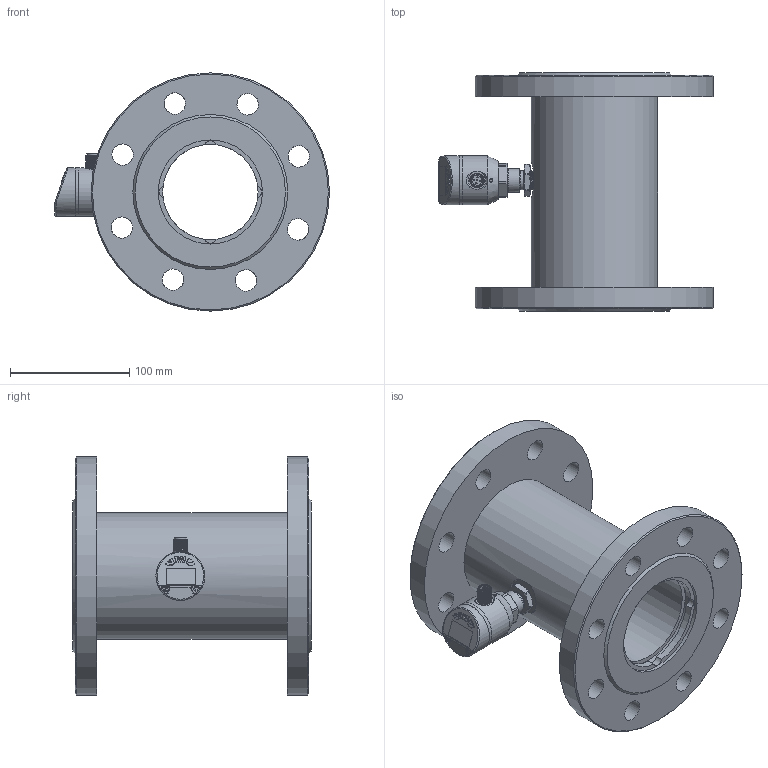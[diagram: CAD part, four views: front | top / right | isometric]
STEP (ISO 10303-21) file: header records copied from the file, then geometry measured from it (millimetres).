
FILE_DESCRIPTION( (''), '2;1');
FILE_NAME( 'QTKA_DN80_flange.step', '2024-01-11T13:47:26+08:00', (''), (''), '', '', '');
FILE_SCHEMA (('AUTOMOTIVE_DESIGN { 1 0 10303 214 3 1 1 1 }'));
Length unit declared in the file: millimetre
Products named in the file (1): QTKA DN80_flange
Bounding box: 230.8 x 200 x 200 mm (x, y, z)
Volume: 1532871.8 mm3; surface area: 261573.3 mm2
Topology: 5 solids, 7 shells, 479 faces, 1174 edges, 751 vertices
Faces by surface type: cylinder 176, plane 163, cone 51, bspline 44, torus 39, sphere 6
Full cylindrical faces by diameter (mm): 1 x5, 2.7 x4, 8.4 x1, 9.7 x1, 9.8 x1, 10.1 x1, 11.6 x1, 12 x1, 15.9 x1, 16.5 x1, 18 x16, 20 x1, 23 x3, 26 x4, 26.1 x1, 37 x1, 41 x3, 80 x1, 86 x2, 87.347 x2, 106 x1, 200 x2
Entity records: 30916 total; most frequent: CARTESIAN_POINT 18826, DIRECTION 2182, ORIENTED_EDGE 2082, EDGE_CURVE 1041, AXIS2_PLACEMENT_3D 895, VERTEX_POINT 696, EDGE_LOOP 637, ADVANCED_FACE 477
